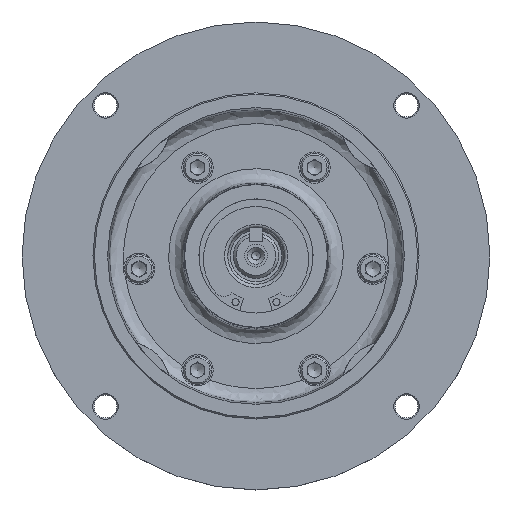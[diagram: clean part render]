
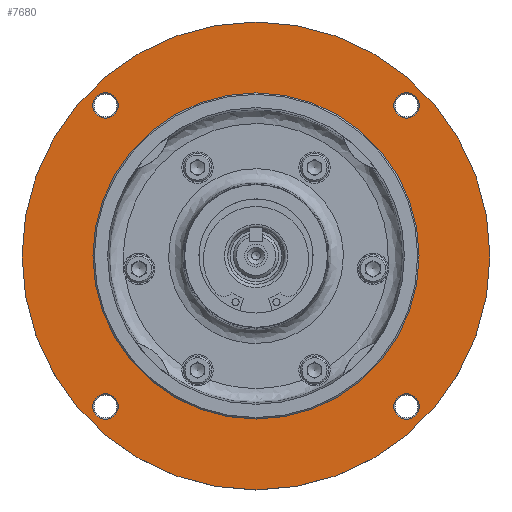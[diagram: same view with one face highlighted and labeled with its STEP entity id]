
A CAD part, top view. The second image highlights one B-rep face of the part: STEP entity #7680.
In plain terms, the highlighted planar face has unit normal (0, 0, 1).
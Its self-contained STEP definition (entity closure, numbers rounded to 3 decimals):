
#643 = CARTESIAN_POINT ( 'NONE',  ( -52.76, 57.26, 43.55 ) ) ;
#712 = CIRCLE ( 'NONE', #16111, 4.469 ) ;
#791 = CARTESIAN_POINT ( 'NONE',  ( -52.76, -48.26, 43.55 ) ) ;
#1167 = CARTESIAN_POINT ( 'NONE',  ( 0., 4.5, 43.55 ) ) ;
#1263 = FACE_BOUND ( 'NONE', #4996, .T. ) ;
#1395 = AXIS2_PLACEMENT_3D ( 'NONE', #643, #7453, #12641 ) ;
#1521 = CARTESIAN_POINT ( 'NONE',  ( 57.229, -48.26, 43.55 ) ) ;
#2927 = FACE_BOUND ( 'NONE', #5633, .T. ) ;
#2965 = AXIS2_PLACEMENT_3D ( 'NONE', #1167, #11585, #19958 ) ;
#3040 = FACE_OUTER_BOUND ( 'NONE', #18752, .T. ) ;
#3299 = CARTESIAN_POINT ( 'NONE',  ( 57.229, 57.26, 43.55 ) ) ;
#3781 = ORIENTED_EDGE ( 'NONE', *, *, #8462, .T. ) ;
#3817 = ORIENTED_EDGE ( 'NONE', *, *, #6763, .T. ) ;
#3927 = DIRECTION ( 'NONE',  ( 0., 0., -1. ) ) ;
#4633 = DIRECTION ( 'NONE',  ( 1., 0., 0. ) ) ;
#4996 = EDGE_LOOP ( 'NONE', ( #15286 ) ) ;
#4997 = CARTESIAN_POINT ( 'NONE',  ( 52.76, -48.26, 43.55 ) ) ;
#5627 = CARTESIAN_POINT ( 'NONE',  ( -48.291, -48.26, 43.55 ) ) ;
#5633 = EDGE_LOOP ( 'NONE', ( #3781 ) ) ;
#5901 = ORIENTED_EDGE ( 'NONE', *, *, #20651, .T. ) ;
#6386 = FACE_BOUND ( 'NONE', #7309, .T. ) ;
#6511 = DIRECTION ( 'NONE',  ( 1., 0., 0. ) ) ;
#6763 = EDGE_CURVE ( 'NONE', #15226, #15226, #712, .T. ) ;
#7309 = EDGE_LOOP ( 'NONE', ( #3817 ) ) ;
#7453 = DIRECTION ( 'NONE',  ( 0., 0., -1. ) ) ;
#7680 = ADVANCED_FACE ( 'NONE', ( #3040, #11682, #2927, #6386, #1263, #13255 ), #20158, .T. ) ;
#7872 = CIRCLE ( 'NONE', #8237, 4.469 ) ;
#8237 = AXIS2_PLACEMENT_3D ( 'NONE', #13163, #20074, #4633 ) ;
#8462 = EDGE_CURVE ( 'NONE', #12065, #12065, #7872, .T. ) ;
#8639 = CIRCLE ( 'NONE', #21237, 4.469 ) ;
#9060 = DIRECTION ( 'NONE',  ( 1., 0., 0. ) ) ;
#9259 = DIRECTION ( 'NONE',  ( 0., 0., 1. ) ) ;
#9614 = AXIS2_PLACEMENT_3D ( 'NONE', #16866, #9877, #6511 ) ;
#9744 = CARTESIAN_POINT ( 'NONE',  ( -48.291, 57.26, 43.55 ) ) ;
#9877 = DIRECTION ( 'NONE',  ( 0., 0., 1. ) ) ;
#10583 = VERTEX_POINT ( 'NONE', #11313 ) ;
#11313 = CARTESIAN_POINT ( 'NONE',  ( 82., 4.5, 43.55 ) ) ;
#11424 = VERTEX_POINT ( 'NONE', #13340 ) ;
#11585 = DIRECTION ( 'NONE',  ( 0., 0., -1. ) ) ;
#11682 = FACE_BOUND ( 'NONE', #20212, .T. ) ;
#11734 = DIRECTION ( 'NONE',  ( 1., 0., 0. ) ) ;
#12065 = VERTEX_POINT ( 'NONE', #3299 ) ;
#12366 = ORIENTED_EDGE ( 'NONE', *, *, #14391, .T. ) ;
#12419 = CIRCLE ( 'NONE', #16351, 82. ) ;
#12641 = DIRECTION ( 'NONE',  ( 1., 0., 0. ) ) ;
#13163 = CARTESIAN_POINT ( 'NONE',  ( 52.76, 57.26, 43.55 ) ) ;
#13225 = VERTEX_POINT ( 'NONE', #9744 ) ;
#13255 = FACE_BOUND ( 'NONE', #21817, .T. ) ;
#13340 = CARTESIAN_POINT ( 'NONE',  ( 57.15, 4.5, 43.55 ) ) ;
#14216 = CARTESIAN_POINT ( 'NONE',  ( 0., 4.5, 43.55 ) ) ;
#14391 = EDGE_CURVE ( 'NONE', #10583, #10583, #12419, .T. ) ;
#15012 = CIRCLE ( 'NONE', #1395, 4.469 ) ;
#15226 = VERTEX_POINT ( 'NONE', #1521 ) ;
#15286 = ORIENTED_EDGE ( 'NONE', *, *, #16031, .T. ) ;
#15722 = DIRECTION ( 'NONE',  ( 1., 0., 0. ) ) ;
#16031 = EDGE_CURVE ( 'NONE', #20873, #20873, #8639, .T. ) ;
#16111 = AXIS2_PLACEMENT_3D ( 'NONE', #4997, #16800, #11734 ) ;
#16351 = AXIS2_PLACEMENT_3D ( 'NONE', #14216, #9259, #9060 ) ;
#16800 = DIRECTION ( 'NONE',  ( 0., 0., -1. ) ) ;
#16866 = CARTESIAN_POINT ( 'NONE',  ( 0., 4.5, 43.55 ) ) ;
#17102 = ORIENTED_EDGE ( 'NONE', *, *, #19244, .T. ) ;
#18752 = EDGE_LOOP ( 'NONE', ( #12366 ) ) ;
#19244 = EDGE_CURVE ( 'NONE', #13225, #13225, #15012, .T. ) ;
#19958 = DIRECTION ( 'NONE',  ( 1., 0., 0. ) ) ;
#20074 = DIRECTION ( 'NONE',  ( 0., 0., -1. ) ) ;
#20158 = PLANE ( 'NONE',  #9614 ) ;
#20212 = EDGE_LOOP ( 'NONE', ( #17102 ) ) ;
#20651 = EDGE_CURVE ( 'NONE', #11424, #11424, #22052, .T. ) ;
#20873 = VERTEX_POINT ( 'NONE', #5627 ) ;
#21237 = AXIS2_PLACEMENT_3D ( 'NONE', #791, #3927, #15722 ) ;
#21817 = EDGE_LOOP ( 'NONE', ( #5901 ) ) ;
#22052 = CIRCLE ( 'NONE', #2965, 57.15 ) ;
